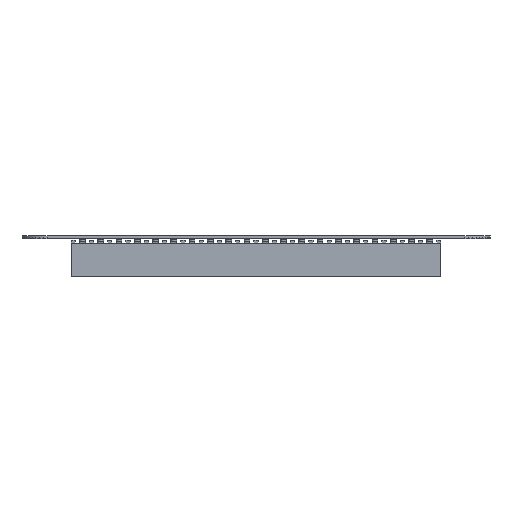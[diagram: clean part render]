
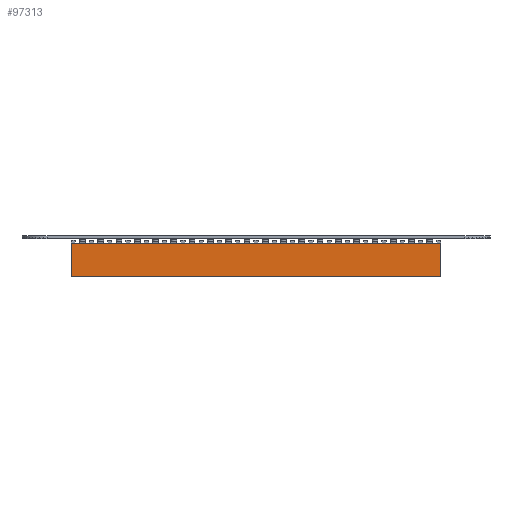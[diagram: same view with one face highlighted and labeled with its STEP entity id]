
A CAD part, front view. The second image highlights one B-rep face of the part: STEP entity #97313.
In plain terms, the highlighted planar face has unit normal (0, -1, 0) as drawn and (0, 0, -1) by its records, which use the part's own axes.
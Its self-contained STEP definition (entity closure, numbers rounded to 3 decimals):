
#57120 = PLANE('',#57121);
#57121 = AXIS2_PLACEMENT_3D('',#57122,#57123,#57124);
#57122 = CARTESIAN_POINT('',(25.65,2.52,0.));
#57123 = DIRECTION('',(1.,0.,0.));
#57124 = DIRECTION('',(0.,0.,-1.));
#57176 = PLANE('',#57177);
#57177 = AXIS2_PLACEMENT_3D('',#57178,#57179,#57180);
#57178 = CARTESIAN_POINT('',(-25.65,2.52,0.)
  );
#57179 = DIRECTION('',(1.,0.,0.));
#57180 = DIRECTION('',(0.,0.,-1.));
#59591 = PLANE('',#59592);
#59592 = AXIS2_PLACEMENT_3D('',#59593,#59594,#59595);
#59593 = CARTESIAN_POINT('',(-25.65,0.4,-2.6));
#59594 = DIRECTION('',(0.,-1.,0.));
#59595 = DIRECTION('',(0.,0.,-1.));
#71672 = EDGE_CURVE('',#71673,#71675,#71677,.T.);
#71673 = VERTEX_POINT('',#71674);
#71674 = CARTESIAN_POINT('',(-25.65,0.4,-2.6));
#71675 = VERTEX_POINT('',#71676);
#71676 = CARTESIAN_POINT('',(25.65,0.4,-2.6));
#71677 = SURFACE_CURVE('',#71678,(#71682,#71689),.PCURVE_S1.);
#71678 = LINE('',#71679,#71680);
#71679 = CARTESIAN_POINT('',(-25.65,0.4,-2.6));
#71680 = VECTOR('',#71681,1.);
#71681 = DIRECTION('',(1.,0.,0.));
#71682 = PCURVE('',#59591,#71683);
#71683 = DEFINITIONAL_REPRESENTATION('',(#71684),#71688);
#71684 = LINE('',#71685,#71686);
#71685 = CARTESIAN_POINT('',(0.,0.));
#71686 = VECTOR('',#71687,1.);
#71687 = DIRECTION('',(0.,1.));
#71688 = ( GEOMETRIC_REPRESENTATION_CONTEXT(2) 
PARAMETRIC_REPRESENTATION_CONTEXT() REPRESENTATION_CONTEXT('2D SPACE',''
  ) );
#71689 = PCURVE('',#71690,#71695);
#71690 = PLANE('',#71691);
#71691 = AXIS2_PLACEMENT_3D('',#71692,#71693,#71694);
#71692 = CARTESIAN_POINT('',(-25.65,5.,-2.6));
#71693 = DIRECTION('',(0.,0.,-1.));
#71694 = DIRECTION('',(0.,1.,0.));
#71695 = DEFINITIONAL_REPRESENTATION('',(#71696),#71700);
#71696 = LINE('',#71697,#71698);
#71697 = CARTESIAN_POINT('',(-4.6,0.));
#71698 = VECTOR('',#71699,1.);
#71699 = DIRECTION('',(0.,1.));
#71700 = ( GEOMETRIC_REPRESENTATION_CONTEXT(2) 
PARAMETRIC_REPRESENTATION_CONTEXT() REPRESENTATION_CONTEXT('2D SPACE',''
  ) );
#72774 = PLANE('',#72775);
#72775 = AXIS2_PLACEMENT_3D('',#72776,#72777,#72778);
#72776 = CARTESIAN_POINT('',(-25.65,5.,2.6));
#72777 = DIRECTION('',(0.,1.,0.));
#72778 = DIRECTION('',(0.,0.,1.));
#97247 = VERTEX_POINT('',#97248);
#97248 = CARTESIAN_POINT('',(25.65,5.,-2.6));
#97269 = EDGE_CURVE('',#97270,#97247,#97272,.T.);
#97270 = VERTEX_POINT('',#97271);
#97271 = CARTESIAN_POINT('',(-25.65,5.,-2.6));
#97272 = SURFACE_CURVE('',#97273,(#97277,#97284),.PCURVE_S1.);
#97273 = LINE('',#97274,#97275);
#97274 = CARTESIAN_POINT('',(-25.65,5.,-2.6));
#97275 = VECTOR('',#97276,1.);
#97276 = DIRECTION('',(1.,0.,0.));
#97277 = PCURVE('',#72774,#97278);
#97278 = DEFINITIONAL_REPRESENTATION('',(#97279),#97283);
#97279 = LINE('',#97280,#97281);
#97280 = CARTESIAN_POINT('',(-5.2,0.));
#97281 = VECTOR('',#97282,1.);
#97282 = DIRECTION('',(0.,1.));
#97283 = ( GEOMETRIC_REPRESENTATION_CONTEXT(2) 
PARAMETRIC_REPRESENTATION_CONTEXT() REPRESENTATION_CONTEXT('2D SPACE',''
  ) );
#97284 = PCURVE('',#71690,#97285);
#97285 = DEFINITIONAL_REPRESENTATION('',(#97286),#97290);
#97286 = LINE('',#97287,#97288);
#97287 = CARTESIAN_POINT('',(0.,0.));
#97288 = VECTOR('',#97289,1.);
#97289 = DIRECTION('',(0.,1.));
#97290 = ( GEOMETRIC_REPRESENTATION_CONTEXT(2) 
PARAMETRIC_REPRESENTATION_CONTEXT() REPRESENTATION_CONTEXT('2D SPACE',''
  ) );
#97313 = ADVANCED_FACE('',(#97314),#71690,.T.);
#97314 = FACE_BOUND('',#97315,.T.);
#97315 = EDGE_LOOP('',(#97316,#97337,#97338,#97359));
#97316 = ORIENTED_EDGE('',*,*,#97317,.T.);
#97317 = EDGE_CURVE('',#97247,#71675,#97318,.T.);
#97318 = SURFACE_CURVE('',#97319,(#97323,#97330),.PCURVE_S1.);
#97319 = LINE('',#97320,#97321);
#97320 = CARTESIAN_POINT('',(25.65,0.4,-2.6));
#97321 = VECTOR('',#97322,1.);
#97322 = DIRECTION('',(0.,-1.,0.));
#97323 = PCURVE('',#71690,#97324);
#97324 = DEFINITIONAL_REPRESENTATION('',(#97325),#97329);
#97325 = LINE('',#97326,#97327);
#97326 = CARTESIAN_POINT('',(-4.6,51.3));
#97327 = VECTOR('',#97328,1.);
#97328 = DIRECTION('',(-1.,0.));
#97329 = ( GEOMETRIC_REPRESENTATION_CONTEXT(2) 
PARAMETRIC_REPRESENTATION_CONTEXT() REPRESENTATION_CONTEXT('2D SPACE',''
  ) );
#97330 = PCURVE('',#57120,#97331);
#97331 = DEFINITIONAL_REPRESENTATION('',(#97332),#97336);
#97332 = LINE('',#97333,#97334);
#97333 = CARTESIAN_POINT('',(2.6,-2.12));
#97334 = VECTOR('',#97335,1.);
#97335 = DIRECTION('',(0.,-1.));
#97336 = ( GEOMETRIC_REPRESENTATION_CONTEXT(2) 
PARAMETRIC_REPRESENTATION_CONTEXT() REPRESENTATION_CONTEXT('2D SPACE',''
  ) );
#97337 = ORIENTED_EDGE('',*,*,#71672,.F.);
#97338 = ORIENTED_EDGE('',*,*,#97339,.T.);
#97339 = EDGE_CURVE('',#71673,#97270,#97340,.T.);
#97340 = SURFACE_CURVE('',#97341,(#97345,#97352),.PCURVE_S1.);
#97341 = LINE('',#97342,#97343);
#97342 = CARTESIAN_POINT('',(-25.65,0.4,-2.6));
#97343 = VECTOR('',#97344,1.);
#97344 = DIRECTION('',(0.,1.,0.));
#97345 = PCURVE('',#71690,#97346);
#97346 = DEFINITIONAL_REPRESENTATION('',(#97347),#97351);
#97347 = LINE('',#97348,#97349);
#97348 = CARTESIAN_POINT('',(-4.6,0.));
#97349 = VECTOR('',#97350,1.);
#97350 = DIRECTION('',(1.,0.));
#97351 = ( GEOMETRIC_REPRESENTATION_CONTEXT(2) 
PARAMETRIC_REPRESENTATION_CONTEXT() REPRESENTATION_CONTEXT('2D SPACE',''
  ) );
#97352 = PCURVE('',#57176,#97353);
#97353 = DEFINITIONAL_REPRESENTATION('',(#97354),#97358);
#97354 = LINE('',#97355,#97356);
#97355 = CARTESIAN_POINT('',(2.6,-2.12));
#97356 = VECTOR('',#97357,1.);
#97357 = DIRECTION('',(0.,1.));
#97358 = ( GEOMETRIC_REPRESENTATION_CONTEXT(2) 
PARAMETRIC_REPRESENTATION_CONTEXT() REPRESENTATION_CONTEXT('2D SPACE',''
  ) );
#97359 = ORIENTED_EDGE('',*,*,#97269,.T.);
